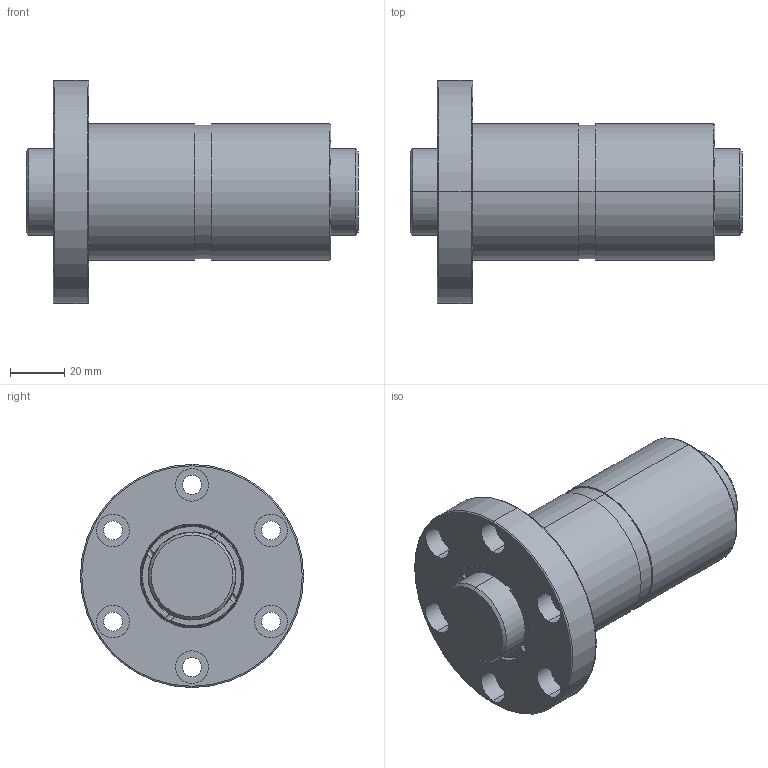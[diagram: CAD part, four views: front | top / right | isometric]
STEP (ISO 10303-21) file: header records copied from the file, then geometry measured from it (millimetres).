
FILE_DESCRIPTION (( 'STEP AP203' ), '1' );
FILE_NAME ('DFZR03205T4N-C.STEP', '2020-06-18T01:21:39', ( '' ), ( '' ), 'SwSTEP 2.0', 'SolidWorks 2013', '' );
FILE_SCHEMA (( 'CONFIG_CONTROL_DESIGN' ));
Length unit declared in the file: millimetre
Products named in the file (1): DFZR03205T4N-C
Bounding box: 122 x 82 x 82 mm (x, y, z)
Volume: 243965.1 mm3; surface area: 56061.9 mm2
Topology: 2 solids, 2 shells, 129 faces, 306 edges, 198 vertices
Faces by surface type: cylinder 70, plane 29, torus 26, cone 4
Entity records: 4819 total; most frequent: CARTESIAN_POINT 1682, DIRECTION 678, ORIENTED_EDGE 612, EDGE_CURVE 306, AXIS2_PLACEMENT_3D 302, VERTEX_POINT 198, CIRCLE 172, EDGE_LOOP 160
